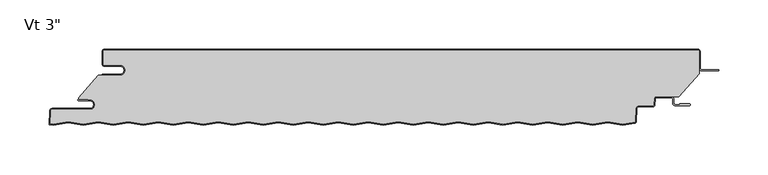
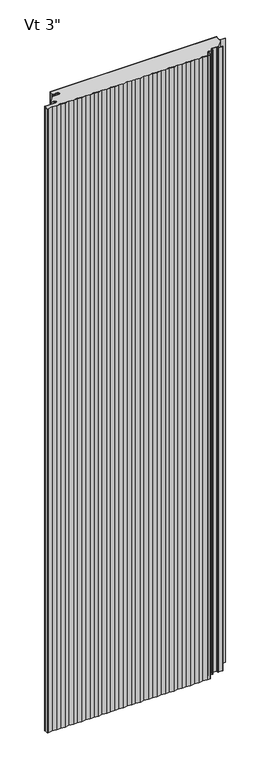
"""IFC4 building model written with IfcOpenShell, lengths in millimetres: plate geometry."""

from ifc_helpers import new_model, si_unit, point, frame, frame_2d, origin, origin_with_axes, place, context, project, spatial, polyline, circle_curve, ellipse_curve, trimmed, segment, composite_curve, outline, extrude, source, transform, mapped, element, save
from ifc_brep_helpers import plane_surface, cylinder_surface, revolved_surface, extruded_surface, advanced_brep


def plate_5aa9691e(model_context):
    return source(origin(), model_context, "Body", "SolidModel", [
        extrude(outline(composite_curve([segment(polyline([(-285.74375, -16.4625), (-301.61875, -16.4625)]), True, "CONTINUOUS"), segment(trimmed(circle_curve(frame_2d((-301.61875, -15.08125)), 1.38125), [point((-301.61875, -16.4625))], [point((-303.0, -15.08125))], False, "CARTESIAN"), True, "CONTINUOUS"), segment(polyline([(-303.0, -15.08125), (-303.0, -2.38125)]), True, "CONTINUOUS"), segment(trimmed(circle_curve(frame_2d((-301.61875, -2.38125)), 1.38125), [point((-303.0, -2.38125))], [point((-301.61875, -1.0))], False, "CARTESIAN"), True, "CONTINUOUS"), segment(polyline([(-301.61875, -1.0), (301.63125, -1.0)]), True, "CONTINUOUS"), segment(trimmed(circle_curve(frame_2d((301.63125, -2.38125)), 1.38125), [point((301.63125, -1.0))], [point((303.0125, -2.38125))], False, "CARTESIAN"), True, "CONTINUOUS"), segment(polyline([(303.0125, -2.38125), (303.0125, -24.9057308), (282.1955434, -48.2125), (259.7540783, -48.2125)]), True, "CONTINUOUS"), segment(trimmed(circle_curve(frame_2d((259.7540783, -50.8)), 2.5875), [point((259.7540783, -48.2125))], [point((257.1701244, -50.6645807))], True, "CARTESIAN"), True, "CONTINUOUS"), segment(polyline([(257.1701244, -50.6645807), (256.8680481, -56.428539)]), True, "CONTINUOUS"), segment(trimmed(circle_curve(frame_2d((255.4886911, -56.35625)), 1.38125), [point((256.8680481, -56.428539))], [point((255.4886911, -57.7375))], False, "CARTESIAN"), True, "CONTINUOUS"), segment(polyline([(255.4886911, -57.7375), (241.3323847, -57.7375)]), True, "CONTINUOUS"), segment(trimmed(circle_curve(frame_2d((241.3323847, -60.325)), 2.5875), [point((241.3323847, -57.7375))], [point((238.7484307, -60.1895807))], True, "CARTESIAN"), True, "CONTINUOUS"), segment(polyline([(238.7484307, -60.1895807), (238.0106485, -74.2673048), (225.2725, -76.3054086), (210.2350675, -73.8994194), (194.9950675, -76.3378194), (179.7550675, -73.8994194), (164.5150675, -76.3378194), (149.2750675, -73.8994194), (134.0350675, -76.3378194), (118.7950675, -73.8994194), (103.5550675, -76.3378194), (88.3150675, -73.8994194), (73.0750675, -76.3378194), (57.8350675, -73.8994194), (42.5950675, -76.3378194), (27.3550675, -73.8994194), (12.1150675, -76.3378194), (-3.1249325, -73.8994194), (-18.3649325, -76.3378194), (-33.6049325, -73.8994194), (-48.8449325, -76.3378194), (-64.0849325, -73.8994194), (-79.3249325, -76.3378194), (-94.5649325, -73.8994194), (-109.8049325, -76.3378194), (-125.0449325, -73.8994194), (-140.2849325, -76.3378194), (-155.5249325, -73.8994194), (-170.7649325, -76.3378194), (-186.0049325, -73.8994194), (-201.2449325, -76.3378194), (-216.4849325, -73.8994194), (-231.7249325, -76.3378194), (-246.9649325, -73.8994194), (-262.2049325, -76.3378194), (-277.4449325, -73.8994194), (-292.6849325, -76.3378194), (-307.9249325, -73.8994194), (-323.1649325, -76.3378194), (-338.4049325, -73.8994194), (-353.6449325, -76.3378194), (-356.9672594, -75.8062471), (-356.2769291, -62.633961)]), True, "CONTINUOUS"), segment(trimmed(circle_curve(frame_2d((-354.8975721, -62.70625)), 1.38125), [point((-356.2769291, -62.633961))], [point((-354.8975721, -61.325))], False, "CARTESIAN"), True, "CONTINUOUS"), segment(polyline([(-354.8975721, -61.325), (-316.7142674, -61.325)]), True, "CONTINUOUS"), segment(trimmed(circle_curve(frame_2d((-316.7142674, -56.35625)), 4.96875), [point((-316.7142674, -61.325))], [point((-316.7142674, -51.3875))], True, "CARTESIAN"), True, "CONTINUOUS"), segment(polyline([(-316.7142674, -51.3875), (-318.3017674, -51.59375), (-318.3017674, -50.8), (-327.8125, -50.8), (-327.8125, -49.2157227), (-307.9260922, -26.4), (-285.74375, -26.4)]), True, "CONTINUOUS"), segment(trimmed(circle_curve(frame_2d((-285.74375, -21.43125)), 4.96875), [point((-285.74375, -26.4))], [point((-285.74375, -16.4625))], True, "CARTESIAN"), True, "CONTINUOUS")], self_intersect=False)), origin_with_axes(), (0.0, 0.0, 1.0), 2400.0),
        extrude(outline(composite_curve([segment(polyline([(-304.0, -25.4), (-285.74375, -25.4)]), True, "CONTINUOUS"), segment(trimmed(circle_curve(frame_2d((-285.74375, -21.43125)), 3.96875), [point((-285.74375, -25.4))], [point((-285.74375, -17.4625))], True, "CARTESIAN"), True, "CONTINUOUS"), segment(polyline([(-285.74375, -17.4625), (-301.61875, -17.4625)]), True, "CONTINUOUS"), segment(trimmed(circle_curve(frame_2d((-301.61875, -15.08125)), 2.38125), [point((-301.61875, -17.4625))], [point((-304.0, -15.08125))], False, "CARTESIAN"), True, "CONTINUOUS"), segment(polyline([(-304.0, -15.08125), (-304.0, -2.38125)]), True, "CONTINUOUS"), segment(trimmed(circle_curve(frame_2d((-301.61875, -2.38125)), 2.38125), [point((-304.0, -2.38125))], [point((-301.61875, 0.0))], False, "CARTESIAN"), True, "CONTINUOUS"), segment(polyline([(-301.61875, 0.0), (301.63125, 0.0)]), True, "CONTINUOUS"), segment(trimmed(circle_curve(frame_2d((301.63125, -2.38125)), 2.38125), [point((301.63125, 0.0))], [point((304.0125, -2.38125))], False, "CARTESIAN"), True, "CONTINUOUS"), segment(polyline([(304.0125, -2.38125), (304.0125, -19.446875)]), True, "CONTINUOUS"), segment(trimmed(circle_curve(frame_2d((305.6, -19.446875)), 1.5875), [point((304.0125, -19.446875))], [point((305.6, -21.034375))], True, "CARTESIAN"), True, "CONTINUOUS"), segment(polyline([(305.6, -21.034375), (323.0625, -21.034375), (323.0625, -22.034375), (305.6, -22.034375)]), True, "CONTINUOUS"), segment(trimmed(circle_curve(frame_2d((305.6, -19.446875)), 2.5875), [point((305.6, -22.034375))], [point((303.0125, -19.446875))], False, "CARTESIAN"), True, "CONTINUOUS"), segment(polyline([(303.0125, -19.446875), (303.0125, -2.38125)]), True, "CONTINUOUS"), segment(trimmed(circle_curve(frame_2d((301.63125, -2.38125)), 1.38125), [point((303.0125, -2.38125))], [point((301.63125, -1.0))], True, "CARTESIAN"), True, "CONTINUOUS"), segment(polyline([(301.63125, -1.0), (-301.61875, -1.0)]), True, "CONTINUOUS"), segment(trimmed(circle_curve(frame_2d((-301.61875, -2.38125)), 1.38125), [point((-301.61875, -1.0))], [point((-303.0, -2.38125))], True, "CARTESIAN"), True, "CONTINUOUS"), segment(polyline([(-303.0, -2.38125), (-303.0, -15.08125)]), True, "CONTINUOUS"), segment(trimmed(circle_curve(frame_2d((-301.61875, -15.08125)), 1.38125), [point((-303.0, -15.08125))], [point((-301.61875, -16.4625))], True, "CARTESIAN"), True, "CONTINUOUS"), segment(polyline([(-301.61875, -16.4625), (-285.74375, -16.4625)]), True, "CONTINUOUS"), segment(trimmed(circle_curve(frame_2d((-285.74375, -21.43125)), 4.96875), [point((-285.74375, -16.4625))], [point((-285.74375, -26.4))], False, "CARTESIAN"), True, "CONTINUOUS"), segment(polyline([(-285.74375, -26.4), (-304.0, -26.4), (-304.0, -25.4)]), True, "CONTINUOUS")], self_intersect=False)), origin_with_axes(), (0.0, 0.0, 1.0), 2400.0),
        advanced_brep(
        [(-328.0252049, -50.8, 2400.0), (-328.0252049, -52.3875, 2400.0), (-316.7142674, -52.3875, 2400.0), (-316.7142674, -60.325, 2400.0), (-354.8975721, -60.325, 2400.0), (-357.2755586, -62.581625, 2400.0), (-358.01832, -76.7543553, 2400.0), (-353.6646686, -77.4509395, 2400.0), (-338.4246686, -75.0125395, 2400.0), (-323.1846686, -77.4509395, 2400.0), (-307.9446686, -75.0125395, 2400.0), (-292.7046686, -77.4509395, 2400.0), (-277.4646686, -75.0125395, 2400.0), (-262.2246686, -77.4509395, 2400.0), (-246.9846686, -75.0125395, 2400.0), (-231.7446686, -77.4509395, 2400.0), (-216.5046686, -75.0125395, 2400.0), (-201.2646686, -77.4509395, 2400.0), (-186.0246686, -75.0125395, 2400.0), (-170.7846686, -77.4509395, 2400.0), (-155.5446686, -75.0125395, 2400.0), (-140.3046686, -77.4509395, 2400.0), (-125.0646686, -75.0125395, 2400.0), (-109.8246686, -77.4509395, 2400.0), (-94.5846686, -75.0125395, 2400.0), (-79.3446686, -77.4509395, 2400.0), (-64.1046686, -75.0125395, 2400.0), (-48.8646686, -77.4509395, 2400.0), (-33.6246686, -75.0125395, 2400.0), (-18.3846686, -77.4509395, 2400.0), (-3.1446686, -75.0125395, 2400.0), (12.0953314, -77.4509395, 2400.0), (27.3353314, -75.0125395, 2400.0), (42.5753314, -77.4509395, 2400.0), (57.8153314, -75.0125395, 2400.0), (73.0553314, -77.4509395, 2400.0), (88.2953314, -75.0125395, 2400.0), (103.5353314, -77.4509395, 2400.0), (118.7753314, -75.0125395, 2400.0), (134.0153314, -77.4509395, 2400.0), (149.2553314, -75.0125395, 2400.0), (164.4953314, -77.4509395, 2400.0), (179.7353314, -75.0125395, 2400.0), (194.9753314, -77.4509395, 2400.0), (210.2153314, -75.0125395, 2400.0), (225.2527639, -77.4185287, 2400.0), (237.6944828, -75.4278537, 2400.0), (239.0289973, -73.943375, 2400.0), (239.7470603, -60.2419167, 2400.0), (241.3323847, -58.7375, 2400.0), (255.4886911, -58.7375, 2400.0), (257.8666776, -56.480875, 2400.0), (258.1687539, -50.7169167, 2400.0), (259.7540783, -49.2125, 2400.0), (274.6294826, -49.2125, 2400.0), (276.2169826, -50.8, 2400.0), (276.2169826, -54.9671875, 2400.0), (278.5982326, -57.3484375, 2400.0), (293.0898532, -57.3484375, 2400.0), (293.0898532, -55.5546875, 2400.0), (283.3607326, -55.5546875, 2400.0), (283.3607326, -56.3484375, 2400.0), (278.5982326, -56.3484375, 2400.0), (277.2169826, -54.9671875, 2400.0), (277.2169826, -50.8, 2400.0), (274.6294826, -48.2125, 2400.0), (259.7540783, -48.2125, 2400.0), (257.1701244, -50.6645807, 2400.0), (256.8680481, -56.428539, 2400.0), (255.4886911, -57.7375, 2400.0), (241.3323847, -57.7375, 2400.0), (238.7484307, -60.1895807, 2400.0), (238.0303677, -73.891039, 2400.0), (237.5364923, -74.440413, 2400.0), (225.2527639, -76.4058096, 2400.0), (210.2153314, -73.9998204, 2400.0), (194.9753314, -76.4382204, 2400.0), (179.7353314, -73.9998204, 2400.0), (164.4953314, -76.4382204, 2400.0), (149.2553314, -73.9998204, 2400.0), (134.0153314, -76.4382204, 2400.0), (118.7753314, -73.9998204, 2400.0), (103.5353314, -76.4382204, 2400.0), (88.2953314, -73.9998204, 2400.0), (73.0553314, -76.4382204, 2400.0), (57.8153314, -73.9998204, 2400.0), (42.5753314, -76.4382204, 2400.0), (27.3353314, -73.9998204, 2400.0), (12.0953314, -76.4382204, 2400.0), (-3.1446686, -73.9998204, 2400.0), (-18.3846686, -76.4382204, 2400.0), (-33.6246686, -73.9998204, 2400.0), (-48.8646686, -76.4382204, 2400.0), (-64.1046686, -73.9998204, 2400.0), (-79.3446686, -76.4382204, 2400.0), (-94.5846686, -73.9998204, 2400.0), (-109.8246686, -76.4382204, 2400.0), (-125.0646686, -73.9998204, 2400.0), (-140.3046686, -76.4382204, 2400.0), (-155.5446686, -73.9998204, 2400.0), (-170.7846686, -76.4382204, 2400.0), (-186.0246686, -73.9998204, 2400.0), (-201.2646686, -76.4382204, 2400.0), (-216.5046686, -73.9998204, 2400.0), (-231.7446686, -76.4382204, 2400.0), (-246.9846686, -73.9998204, 2400.0), (-262.2246686, -76.4382204, 2400.0), (-277.4646686, -73.9998204, 2400.0), (-292.7046686, -76.4382204, 2400.0), (-307.9446686, -73.9998204, 2400.0), (-323.1846686, -76.4382204, 2400.0), (-338.4246686, -73.9998204, 2400.0), (-353.6646686, -76.4382204, 2400.0), (-356.9726415, -75.9089447, 2400.0), (-356.2769291, -62.633961, 2400.0), (-354.8975721, -61.325, 2400.0), (-316.7142674, -61.325, 2400.0), (-316.7142674, -51.3875, 2400.0), (-318.3017674, -51.59375, 2400.0), (-318.3017674, -50.8, 2400.0), (-328.0252049, -50.8, 0.0), (-318.3017674, -50.8, 0.0), (-318.3017674, -51.59375, 0.0), (-316.7142674, -51.3875, 0.0), (-316.7142674, -61.325, 0.0), (-354.8975721, -61.325, 0.0), (-356.2769291, -62.633961, 0.0), (-356.9726415, -75.9089447, 0.0), (-353.6646686, -76.4382204, 0.0), (-338.4246686, -73.9998204, 0.0), (-323.1846686, -76.4382204, 0.0), (-307.9446686, -73.9998204, 0.0), (-292.7046686, -76.4382204, 0.0), (-277.4646686, -73.9998204, 0.0), (-262.2246686, -76.4382204, 0.0), (-246.9846686, -73.9998204, 0.0), (-231.7446686, -76.4382204, 0.0), (-216.5046686, -73.9998204, 0.0), (-201.2646686, -76.4382204, 0.0), (-186.0246686, -73.9998204, 0.0), (-170.7846686, -76.4382204, 0.0), (-155.5446686, -73.9998204, 0.0), (-140.3046686, -76.4382204, 0.0), (-125.0646686, -73.9998204, 0.0), (-109.8246686, -76.4382204, 0.0), (-94.5846686, -73.9998204, 0.0), (-79.3446686, -76.4382204, 0.0), (-64.1046686, -73.9998204, 0.0), (-48.8646686, -76.4382204, 0.0), (-33.6246686, -73.9998204, 0.0), (-18.3846686, -76.4382204, 0.0), (-3.1446686, -73.9998204, 0.0), (12.0953314, -76.4382204, 0.0), (27.3353314, -73.9998204, 0.0), (42.5753314, -76.4382204, 0.0), (57.8153314, -73.9998204, 0.0), (73.0553314, -76.4382204, 0.0), (88.2953314, -73.9998204, 0.0), (103.5353314, -76.4382204, 0.0), (118.7753314, -73.9998204, 0.0), (134.0153314, -76.4382204, 0.0), (149.2553314, -73.9998204, 0.0), (164.4953314, -76.4382204, 0.0), (179.7353314, -73.9998204, 0.0), (194.9753314, -76.4382204, 0.0), (210.2153314, -73.9998204, 0.0), (225.2527639, -76.4058096, 0.0), (237.5364923, -74.440413, 0.0), (238.0303677, -73.891039, 0.0), (238.7484307, -60.1895807, 0.0), (241.3323847, -57.7375, 0.0), (255.4886911, -57.7375, 0.0), (256.8680481, -56.428539, 0.0), (257.1701244, -50.6645807, 0.0), (259.7540783, -48.2125, 0.0), (274.6294826, -48.2125, 0.0), (277.2169826, -50.8, 0.0), (277.2169826, -54.9671875, 0.0), (278.5982326, -56.3484375, 0.0), (283.3607326, -56.3484375, 0.0), (283.3607326, -55.5546875, 0.0), (293.0898532, -55.5546875, 0.0), (293.0898532, -57.3484375, 0.0), (278.5982326, -57.3484375, 0.0), (276.2169826, -54.9671875, 0.0), (276.2169826, -50.8, 0.0), (274.6294826, -49.2125, 0.0), (259.7540783, -49.2125, 0.0), (258.1687539, -50.7169167, 0.0), (257.8666776, -56.480875, 0.0), (255.4886911, -58.7375, 0.0), (241.3323847, -58.7375, 0.0), (239.7470603, -60.2419167, 0.0), (239.0289973, -73.943375, 0.0), (237.6944828, -75.4278537, 0.0), (225.2527639, -77.4185287, 0.0), (210.2153314, -75.0125395, 0.0), (194.9753314, -77.4509395, 0.0), (179.7353314, -75.0125395, 0.0), (164.4953314, -77.4509395, 0.0), (149.2553314, -75.0125395, 0.0), (134.0153314, -77.4509395, 0.0), (118.7753314, -75.0125395, 0.0), (103.5353314, -77.4509395, 0.0), (88.2953314, -75.0125395, 0.0), (73.0553314, -77.4509395, 0.0), (57.8153314, -75.0125395, 0.0), (42.5753314, -77.4509395, 0.0), (27.3353314, -75.0125395, 0.0), (12.0953314, -77.4509395, 0.0), (-3.1446686, -75.0125395, 0.0), (-18.3846686, -77.4509395, 0.0), (-33.6246686, -75.0125395, 0.0), (-48.8646686, -77.4509395, 0.0), (-64.1046686, -75.0125395, 0.0), (-79.3446686, -77.4509395, 0.0), (-94.5846686, -75.0125395, 0.0), (-109.8246686, -77.4509395, 0.0), (-125.0646686, -75.0125395, 0.0), (-140.3046686, -77.4509395, 0.0), (-155.5446686, -75.0125395, 0.0), (-170.7846686, -77.4509395, 0.0), (-186.0246686, -75.0125395, 0.0), (-201.2646686, -77.4509395, 0.0), (-216.5046686, -75.0125395, 0.0), (-231.7446686, -77.4509395, 0.0), (-246.9846686, -75.0125395, 0.0), (-262.2246686, -77.4509395, 0.0), (-277.4646686, -75.0125395, 0.0), (-292.7046686, -77.4509395, 0.0), (-307.9446686, -75.0125395, 0.0), (-323.1846686, -77.4509395, 0.0), (-338.4246686, -75.0125395, 0.0), (-353.6646686, -77.4509395, 0.0), (-358.01832, -76.7543553, 0.0), (-357.2755586, -62.581625, 0.0), (-354.8975721, -60.325, 0.0), (-316.7142674, -60.325, 0.0), (-316.7142674, -52.3875, 0.0), (-328.0252049, -52.3875, 0.0)],
        [
            (0, 1, circle_curve(frame((-328.0252049, -51.59375, 2400.0), z_axis=(0.0, 0.0, 1.0), x_axis=(1.0, 0.0, 0.0)), 0.79375)),
            (1, 2),
            (2, 3, circle_curve(frame((-316.7142674, -56.35625, 2400.0), z_axis=(0.0, 0.0, -1.0), x_axis=(1.0, 0.0, 0.0)), 3.96875)),
            (3, 4),
            (4, 5, circle_curve(frame((-354.8975721, -62.70625, 2400.0), z_axis=(0.0, 0.0, 1.0), x_axis=(1.0, 0.0, 0.0)), 2.38125)),
            (5, 6),
            (6, 7),
            (7, 8),
            (8, 9),
            (9, 10),
            (10, 11),
            (11, 12),
            (12, 13),
            (13, 14),
            (14, 15),
            (15, 16),
            (16, 17),
            (17, 18),
            (18, 19),
            (19, 20),
            (20, 21),
            (21, 22),
            (22, 23),
            (23, 24),
            (24, 25),
            (25, 26),
            (26, 27),
            (27, 28),
            (28, 29),
            (29, 30),
            (30, 31),
            (31, 32),
            (32, 33),
            (33, 34),
            (34, 35),
            (35, 36),
            (36, 37),
            (37, 38),
            (38, 39),
            (39, 40),
            (40, 41),
            (41, 42),
            (42, 43),
            (43, 44),
            (44, 45),
            (45, 46),
            (46, 47, circle_curve(frame((237.4436729, -73.8602917, 2400.0), z_axis=(0.0, 0.0, 1.0), x_axis=(1.0, 0.0, 0.0)), 1.5875)),
            (47, 48),
            (48, 49, circle_curve(frame((241.3323847, -60.325, 2400.0), z_axis=(0.0, 0.0, -1.0), x_axis=(1.0, 0.0, 0.0)), 1.5875)),
            (49, 50),
            (50, 51, circle_curve(frame((255.4886911, -56.35625, 2400.0), z_axis=(0.0, 0.0, 1.0), x_axis=(1.0, 0.0, 0.0)), 2.38125)),
            (51, 52),
            (52, 53, circle_curve(frame((259.7540783, -50.8, 2400.0), z_axis=(0.0, 0.0, -1.0), x_axis=(1.0, 0.0, 0.0)), 1.5875)),
            (53, 54),
            (54, 55, circle_curve(frame((274.6294826, -50.8, 2400.0), z_axis=(0.0, 0.0, -1.0), x_axis=(1.0, 0.0, 0.0)), 1.5875)),
            (55, 56),
            (56, 57, circle_curve(frame((278.5982326, -54.9671875, 2400.0), z_axis=(0.0, 0.0, 1.0), x_axis=(1.0, 0.0, 0.0)), 2.38125)),
            (57, 58),
            (58, 59, ellipse_curve(frame((293.0898532, -56.4515625, 2400.0), z_axis=(0.0, 0.0, 1.0), x_axis=(0.0, 1.0, 0.0)), 0.896875, 0.7852275)),
            (59, 60),
            (60, 61),
            (61, 62),
            (62, 63, circle_curve(frame((278.5982326, -54.9671875, 2400.0), z_axis=(0.0, 0.0, -1.0), x_axis=(1.0, 0.0, 0.0)), 1.38125)),
            (63, 64),
            (64, 65, circle_curve(frame((274.6294826, -50.8, 2400.0), z_axis=(0.0, 0.0, 1.0), x_axis=(1.0, 0.0, 0.0)), 2.5875)),
            (65, 66),
            (66, 67, circle_curve(frame((259.7540783, -50.8, 2400.0), z_axis=(0.0, 0.0, 1.0), x_axis=(1.0, 0.0, 0.0)), 2.5875)),
            (67, 68),
            (68, 69, circle_curve(frame((255.4886911, -56.35625, 2400.0), z_axis=(0.0, 0.0, -1.0), x_axis=(1.0, 0.0, 0.0)), 1.38125)),
            (69, 70),
            (70, 71, circle_curve(frame((241.3323847, -60.325, 2400.0), z_axis=(0.0, 0.0, 1.0), x_axis=(1.0, 0.0, 0.0)), 2.5875)),
            (71, 72),
            (72, 73, circle_curve(frame((237.4436729, -73.8602917, 2400.0), z_axis=(0.0, 0.0, -1.0), x_axis=(1.0, 0.0, 0.0)), 0.5875)),
            (73, 74),
            (74, 75),
            (75, 76),
            (76, 77),
            (77, 78),
            (78, 79),
            (79, 80),
            (80, 81),
            (81, 82),
            (82, 83),
            (83, 84),
            (84, 85),
            (85, 86),
            (86, 87),
            (87, 88),
            (88, 89),
            (89, 90),
            (90, 91),
            (91, 92),
            (92, 93),
            (93, 94),
            (94, 95),
            (95, 96),
            (96, 97),
            (97, 98),
            (98, 99),
            (99, 100),
            (100, 101),
            (101, 102),
            (102, 103),
            (103, 104),
            (104, 105),
            (105, 106),
            (106, 107),
            (107, 108),
            (108, 109),
            (109, 110),
            (110, 111),
            (111, 112),
            (112, 113),
            (113, 114),
            (114, 115, circle_curve(frame((-354.8975721, -62.70625, 2400.0), z_axis=(0.0, 0.0, -1.0), x_axis=(1.0, 0.0, 0.0)), 1.38125)),
            (115, 116),
            (116, 117, circle_curve(frame((-316.7142674, -56.35625, 2400.0), z_axis=(0.0, 0.0, 1.0), x_axis=(1.0, 0.0, 0.0)), 4.96875)),
            (117, 118),
            (118, 119),
            (119, 0),
            (120, 121),
            (121, 122),
            (122, 123),
            (123, 124, circle_curve(frame((-316.7142674, -56.35625, 0.0), z_axis=(0.0, 0.0, -1.0), x_axis=(1.0, 0.0, 0.0)), 4.96875)),
            (124, 125),
            (125, 126, circle_curve(frame((-354.8975721, -62.70625, 0.0), z_axis=(0.0, 0.0, 1.0), x_axis=(1.0, 0.0, 0.0)), 1.38125)),
            (126, 127),
            (127, 128),
            (128, 129),
            (129, 130),
            (130, 131),
            (131, 132),
            (132, 133),
            (133, 134),
            (134, 135),
            (135, 136),
            (136, 137),
            (137, 138),
            (138, 139),
            (139, 140),
            (140, 141),
            (141, 142),
            (142, 143),
            (143, 144),
            (144, 145),
            (145, 146),
            (146, 147),
            (147, 148),
            (148, 149),
            (149, 150),
            (150, 151),
            (151, 152),
            (152, 153),
            (153, 154),
            (154, 155),
            (155, 156),
            (156, 157),
            (157, 158),
            (158, 159),
            (159, 160),
            (160, 161),
            (161, 162),
            (162, 163),
            (163, 164),
            (164, 165),
            (165, 166),
            (166, 167),
            (167, 168, circle_curve(frame((237.4436729, -73.8602917, 0.0), z_axis=(0.0, 0.0, 1.0), x_axis=(1.0, 0.0, 0.0)), 0.5875)),
            (168, 169),
            (169, 170, circle_curve(frame((241.3323847, -60.325, 0.0), z_axis=(0.0, 0.0, -1.0), x_axis=(1.0, 0.0, 0.0)), 2.5875)),
            (170, 171),
            (171, 172, circle_curve(frame((255.4886911, -56.35625, 0.0), z_axis=(0.0, 0.0, 1.0), x_axis=(1.0, 0.0, 0.0)), 1.38125)),
            (172, 173),
            (173, 174, circle_curve(frame((259.7540783, -50.8, 0.0), z_axis=(0.0, 0.0, -1.0), x_axis=(1.0, 0.0, 0.0)), 2.5875)),
            (174, 175),
            (175, 176, circle_curve(frame((274.6294826, -50.8, 0.0), z_axis=(0.0, 0.0, -1.0), x_axis=(1.0, 0.0, 0.0)), 2.5875)),
            (176, 177),
            (177, 178, circle_curve(frame((278.5982326, -54.9671875, 0.0), z_axis=(0.0, 0.0, 1.0), x_axis=(1.0, 0.0, 0.0)), 1.38125)),
            (178, 179),
            (179, 180),
            (180, 181),
            (181, 182, ellipse_curve(frame((293.0898532, -56.4515625, 0.0), z_axis=(0.0, 0.0, -1.0), x_axis=(0.0, 1.0, 0.0)), 0.896875, 0.7852275)),
            (182, 183),
            (183, 184, circle_curve(frame((278.5982326, -54.9671875, 0.0), z_axis=(0.0, 0.0, -1.0), x_axis=(1.0, 0.0, 0.0)), 2.38125)),
            (184, 185),
            (185, 186, circle_curve(frame((274.6294826, -50.8, 0.0), z_axis=(0.0, 0.0, 1.0), x_axis=(1.0, 0.0, 0.0)), 1.5875)),
            (186, 187),
            (187, 188, circle_curve(frame((259.7540783, -50.8, 0.0), z_axis=(0.0, 0.0, 1.0), x_axis=(1.0, 0.0, 0.0)), 1.5875)),
            (188, 189),
            (189, 190, circle_curve(frame((255.4886911, -56.35625, 0.0), z_axis=(0.0, 0.0, -1.0), x_axis=(1.0, 0.0, 0.0)), 2.38125)),
            (190, 191),
            (191, 192, circle_curve(frame((241.3323847, -60.325, 0.0), z_axis=(0.0, 0.0, 1.0), x_axis=(1.0, 0.0, 0.0)), 1.5875)),
            (192, 193),
            (193, 194, circle_curve(frame((237.4436729, -73.8602917, 0.0), z_axis=(0.0, 0.0, -1.0), x_axis=(1.0, 0.0, 0.0)), 1.5875)),
            (194, 195),
            (195, 196),
            (196, 197),
            (197, 198),
            (198, 199),
            (199, 200),
            (200, 201),
            (201, 202),
            (202, 203),
            (203, 204),
            (204, 205),
            (205, 206),
            (206, 207),
            (207, 208),
            (208, 209),
            (209, 210),
            (210, 211),
            (211, 212),
            (212, 213),
            (213, 214),
            (214, 215),
            (215, 216),
            (216, 217),
            (217, 218),
            (218, 219),
            (219, 220),
            (220, 221),
            (221, 222),
            (222, 223),
            (223, 224),
            (224, 225),
            (225, 226),
            (226, 227),
            (227, 228),
            (228, 229),
            (229, 230),
            (230, 231),
            (231, 232),
            (232, 233),
            (233, 234),
            (234, 235),
            (235, 236, circle_curve(frame((-354.8975721, -62.70625, 0.0), z_axis=(0.0, 0.0, -1.0), x_axis=(1.0, 0.0, 0.0)), 2.38125)),
            (236, 237),
            (237, 238, circle_curve(frame((-316.7142674, -56.35625, 0.0), z_axis=(0.0, 0.0, 1.0), x_axis=(1.0, 0.0, 0.0)), 3.96875)),
            (238, 239),
            (239, 120, circle_curve(frame((-328.0252049, -51.59375, 0.0), z_axis=(0.0, 0.0, -1.0), x_axis=(1.0, 0.0, 0.0)), 0.79375)),
            (119, 121),
            (120, 0),
            (239, 1),
            (238, 2),
            (237, 3),
            (236, 4),
            (235, 5),
            (234, 6),
            (48, 192),
            (191, 49),
            (190, 50),
            (189, 51),
            (188, 52),
            (187, 53),
            (114, 126),
            (125, 115),
            (113, 127),
            (70, 170),
            (169, 71),
            (69, 171),
            (68, 172),
            (67, 173),
            (66, 174),
            (61, 179),
            (178, 62),
            (177, 63),
            (176, 64),
            (186, 54),
            (185, 55),
            (184, 56),
            (183, 57),
            (182, 58),
            (65, 175),
            (124, 116),
            (123, 117),
            (118, 122),
            (60, 180),
            (59, 181),
            (47, 193),
            (168, 72),
            (44, 196),
            (195, 45),
            (74, 166),
            (165, 75),
            (164, 76),
            (163, 77),
            (162, 78),
            (161, 79),
            (160, 80),
            (159, 81),
            (158, 82),
            (157, 83),
            (156, 84),
            (155, 85),
            (154, 86),
            (153, 87),
            (152, 88),
            (151, 89),
            (107, 133),
            (132, 108),
            (131, 109),
            (130, 110),
            (129, 111),
            (106, 134),
            (105, 135),
            (104, 136),
            (103, 137),
            (102, 138),
            (101, 139),
            (100, 140),
            (99, 141),
            (98, 142),
            (97, 143),
            (96, 144),
            (95, 145),
            (94, 146),
            (93, 147),
            (92, 148),
            (91, 149),
            (90, 150),
            (128, 112),
            (233, 7),
            (232, 8),
            (231, 9),
            (230, 10),
            (229, 11),
            (228, 12),
            (227, 13),
            (226, 14),
            (225, 15),
            (224, 16),
            (223, 17),
            (222, 18),
            (30, 210),
            (209, 31),
            (208, 32),
            (207, 33),
            (206, 34),
            (205, 35),
            (204, 36),
            (203, 37),
            (202, 38),
            (201, 39),
            (200, 40),
            (199, 41),
            (198, 42),
            (197, 43),
            (194, 46),
            (167, 73),
            (29, 211),
            (28, 212),
            (27, 213),
            (26, 214),
            (25, 215),
            (24, 216),
            (23, 217),
            (22, 218),
            (21, 219),
            (20, 220),
            (19, 221),
        ],
        [
            plane_surface(frame((0.00625, -76.2, 2400.0), z_axis=(0.0, 0.0, 1.0), x_axis=(0.0, -1.0, 0.0))),
            plane_surface(frame((0.00625, -76.2, 0.0), z_axis=(0.0, 0.0, -1.0), x_axis=(0.0, -1.0, 0.0))),
            plane_surface(frame((-328.0252049, -50.8, 2400.0), z_axis=(0.0, 1.0, 0.0), x_axis=(0.0, 0.0, -1.0))),
            cylinder_surface(frame((-328.0252049, -51.59375, 2400.0), z_axis=(0.0, 0.0, 1.0), x_axis=(1.0, 0.0, 0.0)), 0.79375),
            plane_surface(frame((-316.7142674, -52.3875, 2400.0), z_axis=(0.0, -1.0, 0.0), x_axis=(0.0, 0.0, -1.0))),
            revolved_surface(polyline([(-312.7455174, -56.35625, 0.0), (-312.7455174, -56.35625, 2400.0)]), (-316.7142674, -56.35625, 2400.0), (0.0, 0.0, -1.0)),
            plane_surface(frame((-354.8975721, -60.325, 2400.0), z_axis=(0.0, 1.0, 0.0), x_axis=(0.0, 0.0, -1.0))),
            cylinder_surface(frame((-354.8975721, -62.70625, 2400.0), z_axis=(0.0, 0.0, 1.0), x_axis=(1.0, 0.0, 0.0)), 2.38125),
            plane_surface(frame((-358.01832, -76.7543553, 2400.0), z_axis=(-0.9986295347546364, 0.05233595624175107, 0.0), x_axis=(0.0, 0.0, -1.0))),
            revolved_surface(polyline([(242.9198847, -60.325, 0.0), (242.9198847, -60.325, 2400.0)]), (241.3323847, -60.325, 2400.0), (0.0, 0.0, -1.0)),
            plane_surface(frame((255.4886911, -58.7375, 2400.0), z_axis=(0.0, -1.0, 0.0), x_axis=(0.0, 0.0, -1.0))),
            cylinder_surface(frame((255.4886911, -56.35625, 2400.0), z_axis=(0.0, 0.0, 1.0), x_axis=(1.0, 0.0, 0.0)), 2.38125),
            plane_surface(frame((258.1687539, -50.7169167, 2400.0), z_axis=(0.9986295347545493, -0.052335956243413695, 0.0), x_axis=(0.0, 0.0, -1.0))),
            revolved_surface(polyline([(261.3415783, -50.8, 0.0), (261.3415783, -50.8, 2400.0)]), (259.7540783, -50.8, 2400.0), (0.0, 0.0, -1.0)),
            revolved_surface(polyline([(-353.51632209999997, -62.70625, 0.0), (-353.51632209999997, -62.70625, 2400.0)]), (-354.8975721, -62.70625, 2400.0), (0.0, 0.0, -1.0)),
            plane_surface(frame((-356.2769291, -62.633961, 2400.0), z_axis=(0.9986295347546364, -0.05233595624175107, 0.0), x_axis=(0.0, 0.0, -1.0))),
            cylinder_surface(frame((241.3323847, -60.325, 2400.0), z_axis=(0.0, 0.0, 1.0), x_axis=(1.0, 0.0, 0.0)), 2.5875),
            plane_surface(frame((241.3323847, -57.7375, 2400.0), z_axis=(0.0, 1.0, 0.0), x_axis=(0.0, 0.0, -1.0))),
            revolved_surface(polyline([(256.8699411, -56.35625, 0.0), (256.8699411, -56.35625, 2400.0)]), (255.4886911, -56.35625, 2400.0), (0.0, 0.0, -1.0)),
            plane_surface(frame((256.8680481, -56.428539, 2400.0), z_axis=(-0.998629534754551, 0.05233595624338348, 0.0), x_axis=(0.0, 0.0, -1.0))),
            cylinder_surface(frame((259.7540783, -50.8, 2400.0), z_axis=(0.0, 0.0, 1.0), x_axis=(1.0, 0.0, 0.0)), 2.5875),
            plane_surface(frame((278.5982326, -56.3484375, 2400.0), z_axis=(0.0, 1.0, 0.0), x_axis=(0.0, 0.0, -1.0))),
            revolved_surface(polyline([(279.97948260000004, -54.9671875, 0.0), (279.97948260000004, -54.9671875, 2400.0)]), (278.5982326, -54.9671875, 2400.0), (0.0, 0.0, -1.0)),
            plane_surface(frame((277.2169826, -50.8, 2400.0), z_axis=(1.0, 0.0, 0.0), x_axis=(0.0, 0.0, -1.0))),
            plane_surface(frame((274.6294826, -49.2125, 2400.0), z_axis=(0.0, -1.0, 0.0), x_axis=(0.0, 0.0, -1.0))),
            revolved_surface(polyline([(276.2169826, -50.8, 0.0), (276.2169826, -50.8, 2400.0)]), (274.6294826, -50.8, 2400.0), (0.0, 0.0, -1.0)),
            plane_surface(frame((276.2169826, -54.9671875, 2400.0), z_axis=(-1.0, 0.0, 0.0), x_axis=(0.0, 0.0, -1.0))),
            cylinder_surface(frame((278.5982326, -54.9671875, 2400.0), z_axis=(0.0, 0.0, 1.0), x_axis=(1.0, 0.0, 0.0)), 2.38125),
            plane_surface(frame((293.0898532, -57.3484375, 2400.0), z_axis=(0.0, -1.0, 0.0), x_axis=(0.0, 0.0, -1.0))),
            plane_surface(frame((259.7540783, -48.2125, 2400.0), z_axis=(0.0, 1.0, 0.0), x_axis=(0.0, 0.0, -1.0))),
            cylinder_surface(frame((274.6294826, -50.8, 2400.0), z_axis=(0.0, 0.0, 1.0), x_axis=(1.0, 0.0, 0.0)), 2.5875),
            plane_surface(frame((-316.7142674, -61.325, 2400.0), z_axis=(0.0, -1.0, 0.0), x_axis=(0.0, 0.0, -1.0))),
            cylinder_surface(frame((-316.7142674, -56.35625, 2400.0), z_axis=(0.0, 0.0, 1.0), x_axis=(1.0, 0.0, 0.0)), 4.96875),
            plane_surface(frame((-318.3017674, -50.8, 2400.0), z_axis=(1.0, 0.0, 0.0), x_axis=(0.0, 0.0, -1.0))),
            plane_surface(frame((-318.3017674, -51.59375, 2400.0), z_axis=(-0.12883844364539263, 0.9916655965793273, 0.0), x_axis=(0.0, 0.0, -1.0))),
            plane_surface(frame((283.3607326, -56.3484375, 2400.0), z_axis=(-1.0, 0.0, 0.0), x_axis=(0.0, 0.0, -1.0))),
            plane_surface(frame((283.3607326, -55.5546875, 2400.0), z_axis=(0.0, 1.0, 0.0), x_axis=(0.0, 0.0, -1.0))),
            extruded_surface(trimmed(ellipse_curve(frame((293.0898532, -56.4515625, 2400.0), z_axis=(0.0, 0.0, -1.0), x_axis=(0.0, 1.0, 0.0)), 0.896875, 0.7852275), [point((293.0898532, -55.5546875, 2400.0))], [point((293.0898532, -57.3484375, 2400.0))], True, "CARTESIAN"), (0.0, 0.0, -2400.0), 2400.0),
            plane_surface(frame((239.7470603, -60.2419167, 2400.0), z_axis=(0.9986295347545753, -0.052335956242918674, 0.0), x_axis=(0.0, 0.0, -1.0))),
            plane_surface(frame((238.0303677, -73.891039, 2400.0), z_axis=(-0.9986295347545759, 0.05233595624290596, 0.0), x_axis=(0.0, 0.0, -1.0))),
            plane_surface(frame((225.2527639, -77.4185287, 2400.0), z_axis=(-0.15799050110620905, -0.9874406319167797, 0.0), x_axis=(0.0, 0.0, -1.0))),
            plane_surface(frame((210.2153314, -73.9998204, 2400.0), z_axis=(0.15799050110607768, 0.9874406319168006, 0.0), x_axis=(0.0, 0.0, -1.0))),
            plane_surface(frame((194.9753314, -76.4382204, 2400.0), z_axis=(-0.15799050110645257, 0.9874406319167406, 0.0), x_axis=(0.0, 0.0, -1.0))),
            plane_surface(frame((179.7353314, -73.9998204, 2400.0), z_axis=(0.157990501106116, 0.9874406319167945, 0.0), x_axis=(0.0, 0.0, -1.0))),
            plane_surface(frame((164.4953314, -76.4382204, 2400.0), z_axis=(-0.15799050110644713, 0.9874406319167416, 0.0), x_axis=(0.0, 0.0, -1.0))),
            plane_surface(frame((149.2553314, -73.9998204, 2400.0), z_axis=(0.157990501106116, 0.9874406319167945, 0.0), x_axis=(0.0, 0.0, -1.0))),
            plane_surface(frame((134.0153314, -76.4382204, 2400.0), z_axis=(-0.15799050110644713, 0.9874406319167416, 0.0), x_axis=(0.0, 0.0, -1.0))),
            plane_surface(frame((118.7753314, -73.9998204, 2400.0), z_axis=(0.157990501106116, 0.9874406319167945, 0.0), x_axis=(0.0, 0.0, -1.0))),
            plane_surface(frame((103.5353314, -76.4382204, 2400.0), z_axis=(-0.15799050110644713, 0.9874406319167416, 0.0), x_axis=(0.0, 0.0, -1.0))),
            plane_surface(frame((88.2953314, -73.9998204, 2400.0), z_axis=(0.15799050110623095, 0.9874406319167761, 0.0), x_axis=(0.0, 0.0, -1.0))),
            plane_surface(frame((73.0553314, -76.4382204, 2400.0), z_axis=(-0.15799050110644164, 0.9874406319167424, 0.0), x_axis=(0.0, 0.0, -1.0))),
            plane_surface(frame((57.8153314, -73.9998204, 2400.0), z_axis=(0.15799050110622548, 0.987440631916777, 0.0), x_axis=(0.0, 0.0, -1.0))),
            plane_surface(frame((42.5753314, -76.4382204, 2400.0), z_axis=(-0.15799050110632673, 0.9874406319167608, 0.0), x_axis=(0.0, 0.0, -1.0))),
            plane_surface(frame((27.3353314, -73.9998204, 2400.0), z_axis=(0.15799050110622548, 0.987440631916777, 0.0), x_axis=(0.0, 0.0, -1.0))),
            plane_surface(frame((12.0953314, -76.4382204, 2400.0), z_axis=(-0.15799050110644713, 0.9874406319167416, 0.0), x_axis=(0.0, 0.0, -1.0))),
            plane_surface(frame((-3.1446686, -73.9998204, 2400.0), z_axis=(0.15799050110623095, 0.9874406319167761, 0.0), x_axis=(0.0, 0.0, -1.0))),
            plane_surface(frame((-292.7046686, -76.4382204, 2400.0), z_axis=(-0.15799050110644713, 0.9874406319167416, 0.0), x_axis=(0.0, 0.0, -1.0))),
            plane_surface(frame((-307.9446686, -73.9998204, 2400.0), z_axis=(0.15799050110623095, 0.9874406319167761, 0.0), x_axis=(0.0, 0.0, -1.0))),
            plane_surface(frame((-323.1846686, -76.4382204, 2400.0), z_axis=(-0.15799050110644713, 0.9874406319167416, 0.0), x_axis=(0.0, 0.0, -1.0))),
            plane_surface(frame((-338.4246686, -73.9998204, 2400.0), z_axis=(0.157990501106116, 0.9874406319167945, 0.0), x_axis=(0.0, 0.0, -1.0))),
            plane_surface(frame((-277.4646686, -73.9998204, 2400.0), z_axis=(0.15799050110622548, 0.987440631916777, 0.0), x_axis=(0.0, 0.0, -1.0))),
            plane_surface(frame((-262.2246686, -76.4382204, 2400.0), z_axis=(-0.15799050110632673, 0.9874406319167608, 0.0), x_axis=(0.0, 0.0, -1.0))),
            plane_surface(frame((-246.9846686, -73.9998204, 2400.0), z_axis=(0.15799050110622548, 0.987440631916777, 0.0), x_axis=(0.0, 0.0, -1.0))),
            plane_surface(frame((-231.7446686, -76.4382204, 2400.0), z_axis=(-0.15799050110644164, 0.9874406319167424, 0.0), x_axis=(0.0, 0.0, -1.0))),
            plane_surface(frame((-216.5046686, -73.9998204, 2400.0), z_axis=(0.15799050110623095, 0.9874406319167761, 0.0), x_axis=(0.0, 0.0, -1.0))),
            plane_surface(frame((-201.2646686, -76.4382204, 2400.0), z_axis=(-0.15799050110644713, 0.9874406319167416, 0.0), x_axis=(0.0, 0.0, -1.0))),
            plane_surface(frame((-186.0246686, -73.9998204, 2400.0), z_axis=(0.157990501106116, 0.9874406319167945, 0.0), x_axis=(0.0, 0.0, -1.0))),
            plane_surface(frame((-170.7846686, -76.4382204, 2400.0), z_axis=(-0.15799050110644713, 0.9874406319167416, 0.0), x_axis=(0.0, 0.0, -1.0))),
            plane_surface(frame((-155.5446686, -73.9998204, 2400.0), z_axis=(0.15799050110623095, 0.9874406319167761, 0.0), x_axis=(0.0, 0.0, -1.0))),
            plane_surface(frame((-140.3046686, -76.4382204, 2400.0), z_axis=(-0.15799050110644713, 0.9874406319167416, 0.0), x_axis=(0.0, 0.0, -1.0))),
            plane_surface(frame((-125.0646686, -73.9998204, 2400.0), z_axis=(0.15799050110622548, 0.987440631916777, 0.0), x_axis=(0.0, 0.0, -1.0))),
            plane_surface(frame((-109.8246686, -76.4382204, 2400.0), z_axis=(-0.15799050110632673, 0.9874406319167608, 0.0), x_axis=(0.0, 0.0, -1.0))),
            plane_surface(frame((-94.5846686, -73.9998204, 2400.0), z_axis=(0.15799050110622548, 0.987440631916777, 0.0), x_axis=(0.0, 0.0, -1.0))),
            plane_surface(frame((-79.3446686, -76.4382204, 2400.0), z_axis=(-0.15799050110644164, 0.9874406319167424, 0.0), x_axis=(0.0, 0.0, -1.0))),
            plane_surface(frame((-64.1046686, -73.9998204, 2400.0), z_axis=(0.15799050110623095, 0.9874406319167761, 0.0), x_axis=(0.0, 0.0, -1.0))),
            plane_surface(frame((-48.8646686, -76.4382204, 2400.0), z_axis=(-0.15799050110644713, 0.9874406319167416, 0.0), x_axis=(0.0, 0.0, -1.0))),
            plane_surface(frame((-33.6246686, -73.9998204, 2400.0), z_axis=(0.157990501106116, 0.9874406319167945, 0.0), x_axis=(0.0, 0.0, -1.0))),
            plane_surface(frame((-18.3846686, -76.4382204, 2400.0), z_axis=(-0.15799050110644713, 0.9874406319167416, 0.0), x_axis=(0.0, 0.0, -1.0))),
            plane_surface(frame((-353.6646686, -76.4382204, 2400.0), z_axis=(-0.15799050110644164, 0.9874406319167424, 0.0), x_axis=(0.0, 0.0, -1.0))),
            plane_surface(frame((-356.9726415, -75.9089447, 2400.0), z_axis=(0.1579905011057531, 0.9874406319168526, 0.0), x_axis=(0.0, 0.0, -1.0))),
            plane_surface(frame((-353.6646686, -77.4509395, 2400.0), z_axis=(-0.15799050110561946, -0.9874406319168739, 0.0), x_axis=(0.0, 0.0, -1.0))),
            plane_surface(frame((-338.4246686, -75.0125395, 2400.0), z_axis=(0.15799050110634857, -0.9874406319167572, 0.0), x_axis=(0.0, 0.0, -1.0))),
            plane_surface(frame((-323.1846686, -77.4509395, 2400.0), z_axis=(-0.15799050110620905, -0.9874406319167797, 0.0), x_axis=(0.0, 0.0, -1.0))),
            plane_surface(frame((-307.9446686, -75.0125395, 2400.0), z_axis=(0.15799050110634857, -0.9874406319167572, 0.0), x_axis=(0.0, 0.0, -1.0))),
            plane_surface(frame((-292.7046686, -77.4509395, 2400.0), z_axis=(-0.15799050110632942, -0.9874406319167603, 0.0), x_axis=(0.0, 0.0, -1.0))),
            plane_surface(frame((-277.4646686, -75.0125395, 2400.0), z_axis=(0.15799050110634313, -0.9874406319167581, 0.0), x_axis=(0.0, 0.0, -1.0))),
            plane_surface(frame((-262.2246686, -77.4509395, 2400.0), z_axis=(-0.15799050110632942, -0.9874406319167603, 0.0), x_axis=(0.0, 0.0, -1.0))),
            plane_surface(frame((-246.9846686, -75.0125395, 2400.0), z_axis=(0.1579905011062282, -0.9874406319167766, 0.0), x_axis=(0.0, 0.0, -1.0))),
            plane_surface(frame((-231.7446686, -77.4509395, 2400.0), z_axis=(-0.15799050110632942, -0.9874406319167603, 0.0), x_axis=(0.0, 0.0, -1.0))),
            plane_surface(frame((-216.5046686, -75.0125395, 2400.0), z_axis=(0.15799050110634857, -0.9874406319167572, 0.0), x_axis=(0.0, 0.0, -1.0))),
            plane_surface(frame((-201.2646686, -77.4509395, 2400.0), z_axis=(-0.15799050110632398, -0.9874406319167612, 0.0), x_axis=(0.0, 0.0, -1.0))),
            plane_surface(frame((-186.0246686, -75.0125395, 2400.0), z_axis=(0.15799050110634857, -0.9874406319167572, 0.0), x_axis=(0.0, 0.0, -1.0))),
            plane_surface(frame((12.0953314, -77.4509395, 2400.0), z_axis=(-0.15799050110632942, -0.9874406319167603, 0.0), x_axis=(0.0, 0.0, -1.0))),
            plane_surface(frame((27.3353314, -75.0125395, 2400.0), z_axis=(0.15799050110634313, -0.9874406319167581, 0.0), x_axis=(0.0, 0.0, -1.0))),
            plane_surface(frame((42.5753314, -77.4509395, 2400.0), z_axis=(-0.15799050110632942, -0.9874406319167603, 0.0), x_axis=(0.0, 0.0, -1.0))),
            plane_surface(frame((57.8153314, -75.0125395, 2400.0), z_axis=(0.1579905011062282, -0.9874406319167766, 0.0), x_axis=(0.0, 0.0, -1.0))),
            plane_surface(frame((73.0553314, -77.4509395, 2400.0), z_axis=(-0.15799050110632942, -0.9874406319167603, 0.0), x_axis=(0.0, 0.0, -1.0))),
            plane_surface(frame((88.2953314, -75.0125395, 2400.0), z_axis=(0.15799050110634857, -0.9874406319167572, 0.0), x_axis=(0.0, 0.0, -1.0))),
            plane_surface(frame((103.5353314, -77.4509395, 2400.0), z_axis=(-0.15799050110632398, -0.9874406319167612, 0.0), x_axis=(0.0, 0.0, -1.0))),
            plane_surface(frame((118.7753314, -75.0125395, 2400.0), z_axis=(0.15799050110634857, -0.9874406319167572, 0.0), x_axis=(0.0, 0.0, -1.0))),
            plane_surface(frame((134.0153314, -77.4509395, 2400.0), z_axis=(-0.15799050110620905, -0.9874406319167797, 0.0), x_axis=(0.0, 0.0, -1.0))),
            plane_surface(frame((149.2553314, -75.0125395, 2400.0), z_axis=(0.15799050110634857, -0.9874406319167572, 0.0), x_axis=(0.0, 0.0, -1.0))),
            plane_surface(frame((164.4953314, -77.4509395, 2400.0), z_axis=(-0.15799050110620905, -0.9874406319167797, 0.0), x_axis=(0.0, 0.0, -1.0))),
            plane_surface(frame((179.7353314, -75.0125395, 2400.0), z_axis=(0.15799050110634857, -0.9874406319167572, 0.0), x_axis=(0.0, 0.0, -1.0))),
            plane_surface(frame((194.9753314, -77.4509395, 2400.0), z_axis=(-0.15799050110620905, -0.9874406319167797, 0.0), x_axis=(0.0, 0.0, -1.0))),
            plane_surface(frame((210.2153314, -75.0125395, 2400.0), z_axis=(0.15799050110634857, -0.9874406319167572, 0.0), x_axis=(0.0, 0.0, -1.0))),
            plane_surface(frame((237.6944828, -75.4278537, 2400.0), z_axis=(0.15799050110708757, -0.987440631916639, 0.0), x_axis=(0.0, 0.0, -1.0))),
            cylinder_surface(frame((237.4436729, -73.8602917, 2400.0), z_axis=(0.0, 0.0, 1.0), x_axis=(1.0, 0.0, 0.0)), 1.5875),
            revolved_surface(polyline([(238.0311729, -73.8602917, 0.0), (238.0311729, -73.8602917, 2400.0)]), (237.4436729, -73.8602917, 2400.0), (0.0, 0.0, -1.0)),
            plane_surface(frame((225.2527639, -76.4058096, 2400.0), z_axis=(-0.15799050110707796, 0.9874406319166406, 0.0), x_axis=(0.0, 0.0, -1.0))),
            plane_surface(frame((-3.1446686, -75.0125395, 2400.0), z_axis=(0.15799050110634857, -0.9874406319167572, 0.0), x_axis=(0.0, 0.0, -1.0))),
            plane_surface(frame((-18.3846686, -77.4509395, 2400.0), z_axis=(-0.15799050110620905, -0.9874406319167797, 0.0), x_axis=(0.0, 0.0, -1.0))),
            plane_surface(frame((-33.6246686, -75.0125395, 2400.0), z_axis=(0.15799050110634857, -0.9874406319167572, 0.0), x_axis=(0.0, 0.0, -1.0))),
            plane_surface(frame((-48.8646686, -77.4509395, 2400.0), z_axis=(-0.15799050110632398, -0.9874406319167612, 0.0), x_axis=(0.0, 0.0, -1.0))),
            plane_surface(frame((-64.1046686, -75.0125395, 2400.0), z_axis=(0.15799050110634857, -0.9874406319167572, 0.0), x_axis=(0.0, 0.0, -1.0))),
            plane_surface(frame((-79.3446686, -77.4509395, 2400.0), z_axis=(-0.15799050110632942, -0.9874406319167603, 0.0), x_axis=(0.0, 0.0, -1.0))),
            plane_surface(frame((-94.5846686, -75.0125395, 2400.0), z_axis=(0.1579905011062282, -0.9874406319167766, 0.0), x_axis=(0.0, 0.0, -1.0))),
            plane_surface(frame((-109.8246686, -77.4509395, 2400.0), z_axis=(-0.15799050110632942, -0.9874406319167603, 0.0), x_axis=(0.0, 0.0, -1.0))),
            plane_surface(frame((-125.0646686, -75.0125395, 2400.0), z_axis=(0.15799050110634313, -0.9874406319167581, 0.0), x_axis=(0.0, 0.0, -1.0))),
            plane_surface(frame((-140.3046686, -77.4509395, 2400.0), z_axis=(-0.15799050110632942, -0.9874406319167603, 0.0), x_axis=(0.0, 0.0, -1.0))),
            plane_surface(frame((-155.5446686, -75.0125395, 2400.0), z_axis=(0.15799050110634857, -0.9874406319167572, 0.0), x_axis=(0.0, 0.0, -1.0))),
            plane_surface(frame((-170.7846686, -77.4509395, 2400.0), z_axis=(-0.15799050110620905, -0.9874406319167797, 0.0), x_axis=(0.0, 0.0, -1.0))),
        ],
        [
            (0, [[1, 2, 3, 4, 5, 6, 7, 8, 9, 10, 11, 12, 13, 14, 15, 16, 17, 18, 19, 20, 21, 22, 23, 24, 25, 26, 27, 28, 29, 30, 31, 32, 33, 34, 35, 36, 37, 38, 39, 40, 41, 42, 43, 44, 45, 46, 47, 48, 49, 50, 51, 52, 53, 54, 55, 56, 57, 58, 59, 60, 61, 62, 63, 64, 65, 66, 67, 68, 69, 70, 71, 72, 73, 74, 75, 76, 77, 78, 79, 80, 81, 82, 83, 84, 85, 86, 87, 88, 89, 90, 91, 92, 93, 94, 95, 96, 97, 98, 99, 100, 101, 102, 103, 104, 105, 106, 107, 108, 109, 110, 111, 112, 113, 114, 115, 116, 117, 118, 119, 120]]),
            (1, [[121, 122, 123, 124, 125, 126, 127, 128, 129, 130, 131, 132, 133, 134, 135, 136, 137, 138, 139, 140, 141, 142, 143, 144, 145, 146, 147, 148, 149, 150, 151, 152, 153, 154, 155, 156, 157, 158, 159, 160, 161, 162, 163, 164, 165, 166, 167, 168, 169, 170, 171, 172, 173, 174, 175, 176, 177, 178, 179, 180, 181, 182, 183, 184, 185, 186, 187, 188, 189, 190, 191, 192, 193, 194, 195, 196, 197, 198, 199, 200, 201, 202, 203, 204, 205, 206, 207, 208, 209, 210, 211, 212, 213, 214, 215, 216, 217, 218, 219, 220, 221, 222, 223, 224, 225, 226, 227, 228, 229, 230, 231, 232, 233, 234, 235, 236, 237, 238, 239, 240]]),
            (2, [[241, -121, 242, -120]]),
            (3, [[-242, -240, 243, -1]]),
            (4, [[-243, -239, 244, -2]]),
            (5, [[-244, -238, 245, -3]]),
            (6, [[-245, -237, 246, -4]]),
            (7, [[-246, -236, 247, -5]]),
            (8, [[-247, -235, 248, -6]]),
            (9, [[249, -192, 250, -49]]),
            (10, [[-250, -191, 251, -50]]),
            (11, [[-251, -190, 252, -51]]),
            (12, [[-252, -189, 253, -52]]),
            (13, [[-253, -188, 254, -53]]),
            (14, [[255, -126, 256, -115]]),
            (15, [[257, -127, -255, -114]]),
            (16, [[258, -170, 259, -71]]),
            (17, [[260, -171, -258, -70]]),
            (18, [[261, -172, -260, -69]]),
            (19, [[262, -173, -261, -68]]),
            (20, [[263, -174, -262, -67]]),
            (21, [[264, -179, 265, -62]]),
            (22, [[-265, -178, 266, -63]]),
            (23, [[-266, -177, 267, -64]]),
            (24, [[-254, -187, 268, -54]]),
            (25, [[-268, -186, 269, -55]]),
            (26, [[-269, -185, 270, -56]]),
            (27, [[-270, -184, 271, -57]]),
            (28, [[-271, -183, 272, -58]]),
            (29, [[273, -175, -263, -66]]),
            (30, [[-267, -176, -273, -65]]),
            (31, [[-256, -125, 274, -116]]),
            (32, [[-274, -124, 275, -117]]),
            (33, [[276, -122, -241, -119]]),
            (34, [[-275, -123, -276, -118]]),
            (35, [[277, -180, -264, -61]]),
            (36, [[278, -181, -277, -60]]),
            (37, [[-272, -182, -278, -59]]),
            (38, [[279, -193, -249, -48]]),
            (39, [[-259, -169, 280, -72]]),
            (40, [[281, -196, 282, -45]]),
            (41, [[283, -166, 284, -75]]),
            (42, [[-284, -165, 285, -76]]),
            (43, [[-285, -164, 286, -77]]),
            (44, [[-286, -163, 287, -78]]),
            (45, [[-287, -162, 288, -79]]),
            (46, [[-288, -161, 289, -80]]),
            (47, [[-289, -160, 290, -81]]),
            (48, [[-290, -159, 291, -82]]),
            (49, [[-291, -158, 292, -83]]),
            (50, [[-292, -157, 293, -84]]),
            (51, [[-293, -156, 294, -85]]),
            (52, [[-294, -155, 295, -86]]),
            (53, [[-295, -154, 296, -87]]),
            (54, [[-296, -153, 297, -88]]),
            (55, [[-297, -152, 298, -89]]),
            (56, [[299, -133, 300, -108]]),
            (57, [[-300, -132, 301, -109]]),
            (58, [[-301, -131, 302, -110]]),
            (59, [[-302, -130, 303, -111]]),
            (60, [[304, -134, -299, -107]]),
            (61, [[305, -135, -304, -106]]),
            (62, [[306, -136, -305, -105]]),
            (63, [[307, -137, -306, -104]]),
            (64, [[308, -138, -307, -103]]),
            (65, [[309, -139, -308, -102]]),
            (66, [[310, -140, -309, -101]]),
            (67, [[311, -141, -310, -100]]),
            (68, [[312, -142, -311, -99]]),
            (69, [[313, -143, -312, -98]]),
            (70, [[314, -144, -313, -97]]),
            (71, [[315, -145, -314, -96]]),
            (72, [[316, -146, -315, -95]]),
            (73, [[317, -147, -316, -94]]),
            (74, [[318, -148, -317, -93]]),
            (75, [[319, -149, -318, -92]]),
            (76, [[320, -150, -319, -91]]),
            (77, [[-298, -151, -320, -90]]),
            (78, [[-303, -129, 321, -112]]),
            (79, [[-321, -128, -257, -113]]),
            (80, [[-248, -234, 322, -7]]),
            (81, [[-322, -233, 323, -8]]),
            (82, [[-323, -232, 324, -9]]),
            (83, [[-324, -231, 325, -10]]),
            (84, [[-325, -230, 326, -11]]),
            (85, [[-326, -229, 327, -12]]),
            (86, [[-327, -228, 328, -13]]),
            (87, [[-328, -227, 329, -14]]),
            (88, [[-329, -226, 330, -15]]),
            (89, [[-330, -225, 331, -16]]),
            (90, [[-331, -224, 332, -17]]),
            (91, [[-332, -223, 333, -18]]),
            (92, [[334, -210, 335, -31]]),
            (93, [[-335, -209, 336, -32]]),
            (94, [[-336, -208, 337, -33]]),
            (95, [[-337, -207, 338, -34]]),
            (96, [[-338, -206, 339, -35]]),
            (97, [[-339, -205, 340, -36]]),
            (98, [[-340, -204, 341, -37]]),
            (99, [[-341, -203, 342, -38]]),
            (100, [[-342, -202, 343, -39]]),
            (101, [[-343, -201, 344, -40]]),
            (102, [[-344, -200, 345, -41]]),
            (103, [[-345, -199, 346, -42]]),
            (104, [[-346, -198, 347, -43]]),
            (105, [[-347, -197, -281, -44]]),
            (106, [[-282, -195, 348, -46]]),
            (107, [[-348, -194, -279, -47]]),
            (108, [[-280, -168, 349, -73]]),
            (109, [[-349, -167, -283, -74]]),
            (110, [[350, -211, -334, -30]]),
            (111, [[351, -212, -350, -29]]),
            (112, [[352, -213, -351, -28]]),
            (113, [[353, -214, -352, -27]]),
            (114, [[354, -215, -353, -26]]),
            (115, [[355, -216, -354, -25]]),
            (116, [[356, -217, -355, -24]]),
            (117, [[357, -218, -356, -23]]),
            (118, [[358, -219, -357, -22]]),
            (119, [[359, -220, -358, -21]]),
            (120, [[360, -221, -359, -20]]),
            (121, [[-333, -222, -360, -19]]),
        ],
    ),
    ])


if __name__ == "__main__":
    model = new_model("IFC4")
    model_context = context("Model", 3, world=origin())
    ifc_project = project(units=[si_unit("LENGTHUNIT", "METRE", prefix="MILLI")], contexts=[model_context])
    site = spatial("IfcSite", under=ifc_project)
    building = spatial("IfcBuilding", under=site)
    placement = place(None, origin())
    plate_shape = plate_5aa9691e(model_context)
    element("IfcPlate", 1, ObjectType="KIP-24-DWHR-R19-CP-Vt-S : Vt 3\"", at=placement, inside=building, context=model_context, shape_type="MappedRepresentation", body=[
        mapped(plate_shape, transform((0.0, 0.0, 0.0), x_axis=(1.0, 0.0, 0.0), y_axis=(0.0, 1.0, 0.0), z_axis=(0.0, 0.0, 1.0))),
    ])
    save(model, "model.ifc")
